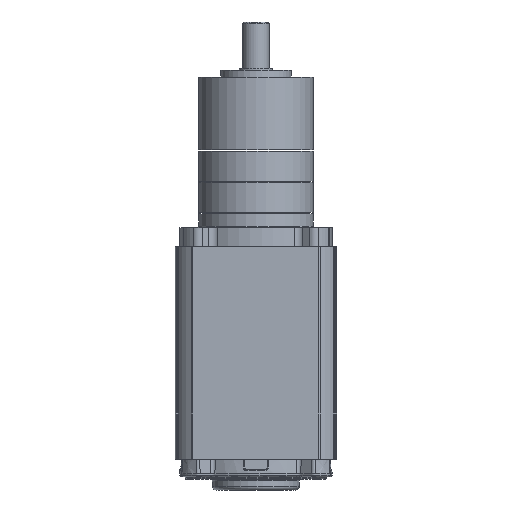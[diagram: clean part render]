
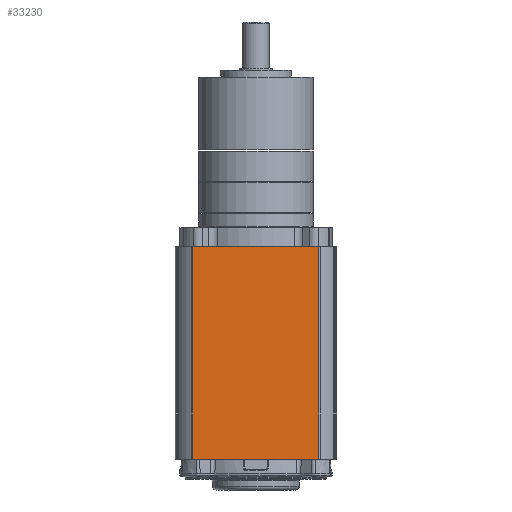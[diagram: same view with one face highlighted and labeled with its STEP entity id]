
A CAD part, front view. The second image highlights one B-rep face of the part: STEP entity #33230.
In plain terms, the highlighted planar face has unit normal (0, -1, 0).
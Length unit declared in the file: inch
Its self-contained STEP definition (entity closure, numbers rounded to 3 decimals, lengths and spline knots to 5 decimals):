
#1168 = VERTEX_POINT ( 'NONE', #40735 ) ;
#3522 = VECTOR ( 'NONE', #7976, 39.37008 ) ;
#3685 = CARTESIAN_POINT ( 'NONE',  ( -1.1475, -1.442, -1.83454 ) ) ;
#4082 = EDGE_CURVE ( 'NONE', #1168, #27975, #41004, .T. ) ;
#6250 = DIRECTION ( 'NONE',  ( 0., -1., 0. ) ) ;
#7507 = LINE ( 'NONE', #37452, #17729 ) ;
#7664 = VECTOR ( 'NONE', #36081, 39.37008 ) ;
#7976 = DIRECTION ( 'NONE',  ( -1., 0., 0. ) ) ;
#9010 = LINE ( 'NONE', #23118, #7664 ) ;
#11894 = CARTESIAN_POINT ( 'NONE',  ( 1.1275, -1.442, -1.83454 ) ) ;
#12646 = VERTEX_POINT ( 'NONE', #44447 ) ;
#15101 = LINE ( 'NONE', #20963, #3522 ) ;
#15441 = EDGE_CURVE ( 'NONE', #43254, #27975, #9010, .T. ) ;
#16685 = EDGE_CURVE ( 'NONE', #1168, #12646, #7507, .T. ) ;
#17729 = VECTOR ( 'NONE', #50245, 39.37008 ) ;
#20963 = CARTESIAN_POINT ( 'NONE',  ( 1.1275, -1.442, -5.62954 ) ) ;
#23118 = CARTESIAN_POINT ( 'NONE',  ( 1.1275, -1.442, -5.76454 ) ) ;
#27975 = VERTEX_POINT ( 'NONE', #11894 ) ;
#29380 = VECTOR ( 'NONE', #42976, 39.37008 ) ;
#32169 = PLANE ( 'NONE',  #32503 ) ;
#32348 = CARTESIAN_POINT ( 'NONE',  ( -1.1475, -1.442, -5.76454 ) ) ;
#32503 = AXIS2_PLACEMENT_3D ( 'NONE', #32348, #6250, #36798 ) ;
#33230 = ADVANCED_FACE ( 'NONE', ( #52852 ), #32169, .T. ) ;
#36081 = DIRECTION ( 'NONE',  ( 0., 0., 1. ) ) ;
#36798 = DIRECTION ( 'NONE',  ( 1., 0., 0. ) ) ;
#37452 = CARTESIAN_POINT ( 'NONE',  ( -1.1275, -1.442, -5.76454 ) ) ;
#40190 = EDGE_CURVE ( 'NONE', #43254, #12646, #15101, .T. ) ;
#40735 = CARTESIAN_POINT ( 'NONE',  ( -1.1275, -1.442, -1.83454 ) ) ;
#41004 = LINE ( 'NONE', #3685, #29380 ) ;
#41799 = ORIENTED_EDGE ( 'NONE', *, *, #15441, .T. ) ;
#42976 = DIRECTION ( 'NONE',  ( 1., 0., 0. ) ) ;
#43254 = VERTEX_POINT ( 'NONE', #48513 ) ;
#44447 = CARTESIAN_POINT ( 'NONE',  ( -1.1275, -1.442, -5.62954 ) ) ;
#46804 = ORIENTED_EDGE ( 'NONE', *, *, #4082, .F. ) ;
#48513 = CARTESIAN_POINT ( 'NONE',  ( 1.1275, -1.442, -5.62954 ) ) ;
#48996 = EDGE_LOOP ( 'NONE', ( #52350, #50885, #41799, #46804 ) ) ;
#50245 = DIRECTION ( 'NONE',  ( 0., 0., -1. ) ) ;
#50885 = ORIENTED_EDGE ( 'NONE', *, *, #40190, .F. ) ;
#52350 = ORIENTED_EDGE ( 'NONE', *, *, #16685, .T. ) ;
#52852 = FACE_OUTER_BOUND ( 'NONE', #48996, .T. ) ;
